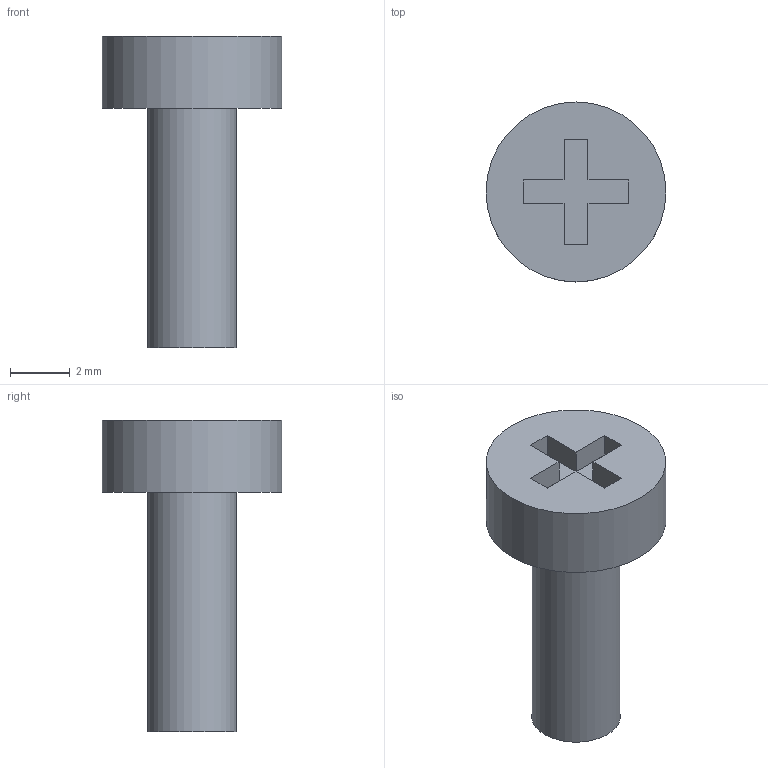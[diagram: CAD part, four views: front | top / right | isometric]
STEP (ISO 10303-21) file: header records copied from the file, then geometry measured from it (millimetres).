
FILE_DESCRIPTION(('Open CASCADE Model'),'2;1');
FILE_NAME('Open CASCADE Shape Model','2026-10-01T12:35:23',('Author'),( 'Open CASCADE'),'Open CASCADE STEP processor 7.8','Open CASCADE 7.8' ,'Unknown');
FILE_SCHEMA(('AUTOMOTIVE_DESIGN { 1 0 10303 214 1 1 1 1 }'));
Length unit declared in the file: millimetre
Products named in the file (2): H93_USB_screw_2; H93_USB_screw_2_solid
Assembly tree (1 placements, depth 2):
  H93_USB_screw_2
    H93_USB_screw_2_solid
Bounding box: 6 x 6 x 10.4 mm (x, y, z)
Volume: 118.9 mm3; surface area: 187.4 mm2
Topology: 1 solids, 1 shells, 18 faces, 42 edges, 28 vertices
Faces by surface type: plane 16, cylinder 2
Full cylindrical faces by diameter (mm): 2.96 x1, 6 x1
Entity records: 1061 total; most frequent: CARTESIAN_POINT 206, DIRECTION 138, LINE 86, VECTOR 86, ORIENTED_EDGE 84, PCURVE 84, DEFINITIONAL_REPRESENTATION 84, EDGE_CURVE 42
